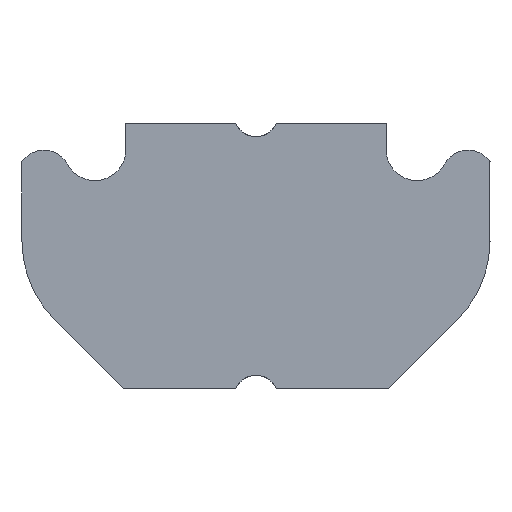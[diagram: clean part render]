
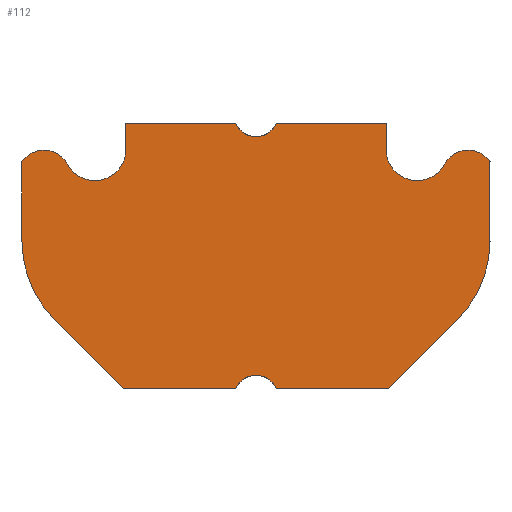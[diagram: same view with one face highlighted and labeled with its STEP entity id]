
A CAD part, left-side view. The second image highlights one B-rep face of the part: STEP entity #112.
In plain terms, the highlighted planar face has unit normal (-1, 0, 0).
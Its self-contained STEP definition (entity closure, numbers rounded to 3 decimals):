
#112=ADVANCED_FACE('',(#221),#222,.T.);
#221=FACE_OUTER_BOUND('',#321,.T.);
#222=PLANE('',#322);
#321=EDGE_LOOP('',(#608,#609,#610,#611,#612,#613,#614,#615,#616,#617,#618,#619,#620,#621,#622,#623,#624,#625,#626));
#322=AXIS2_PLACEMENT_3D('',#627,#628,#629);
#608=ORIENTED_EDGE('',*,*,#745,.T.);
#609=ORIENTED_EDGE('',*,*,#715,.T.);
#610=ORIENTED_EDGE('',*,*,#739,.T.);
#611=ORIENTED_EDGE('',*,*,#743,.T.);
#612=ORIENTED_EDGE('',*,*,#691,.F.);
#613=ORIENTED_EDGE('',*,*,#654,.T.);
#614=ORIENTED_EDGE('',*,*,#741,.T.);
#615=ORIENTED_EDGE('',*,*,#719,.T.);
#616=ORIENTED_EDGE('',*,*,#749,.T.);
#617=ORIENTED_EDGE('',*,*,#723,.T.);
#618=ORIENTED_EDGE('',*,*,#727,.T.);
#619=ORIENTED_EDGE('',*,*,#751,.F.);
#620=ORIENTED_EDGE('',*,*,#732,.T.);
#621=ORIENTED_EDGE('',*,*,#663,.T.);
#622=ORIENTED_EDGE('',*,*,#687,.F.);
#623=ORIENTED_EDGE('',*,*,#747,.T.);
#624=ORIENTED_EDGE('',*,*,#735,.T.);
#625=ORIENTED_EDGE('',*,*,#647,.F.);
#626=ORIENTED_EDGE('',*,*,#730,.F.);
#627=CARTESIAN_POINT('',(0.,-5.3,3.0));
#628=DIRECTION('',(-1.0,0.,0.0));
#629=DIRECTION('',(0.,-1.0,0.0));
#647=EDGE_CURVE('',#782,#777,#784,.T.);
#654=EDGE_CURVE('',#796,#794,#797,.T.);
#663=EDGE_CURVE('',#813,#811,#814,.T.);
#687=EDGE_CURVE('',#846,#811,#848,.T.);
#691=EDGE_CURVE('',#796,#850,#854,.T.);
#715=EDGE_CURVE('',#890,#888,#891,.T.);
#719=EDGE_CURVE('',#896,#894,#897,.T.);
#723=EDGE_CURVE('',#902,#900,#903,.T.);
#727=EDGE_CURVE('',#900,#906,#908,.T.);
#730=EDGE_CURVE('',#910,#782,#912,.T.);
#732=EDGE_CURVE('',#914,#813,#915,.T.);
#735=EDGE_CURVE('',#918,#777,#919,.T.);
#739=EDGE_CURVE('',#888,#922,#924,.T.);
#741=EDGE_CURVE('',#794,#896,#926,.T.);
#743=EDGE_CURVE('',#922,#850,#928,.T.);
#745=EDGE_CURVE('',#910,#890,#930,.T.);
#747=EDGE_CURVE('',#846,#918,#932,.T.);
#749=EDGE_CURVE('',#894,#902,#934,.T.);
#751=EDGE_CURVE('',#914,#906,#936,.T.);
#777=VERTEX_POINT('',#1000);
#782=VERTEX_POINT('',#1006);
#784=CIRCLE('',#1009,0.7);
#794=VERTEX_POINT('',#1022);
#796=VERTEX_POINT('',#1025);
#797=LINE('',#1026,#1027);
#811=VERTEX_POINT('',#1044);
#813=VERTEX_POINT('',#1047);
#814=LINE('',#1048,#1049);
#846=VERTEX_POINT('',#1152);
#848=CIRCLE('',#1155,0.5);
#850=VERTEX_POINT('',#1157);
#854=CIRCLE('',#1171,0.5);
#888=VERTEX_POINT('',#1214);
#890=VERTEX_POINT('',#1217);
#891=CIRCLE('',#1218,2.5);
#894=VERTEX_POINT('',#1222);
#896=VERTEX_POINT('',#1225);
#897=CIRCLE('',#1226,2.5);
#900=VERTEX_POINT('',#1230);
#902=VERTEX_POINT('',#1233);
#903=LINE('',#1234,#1235);
#906=VERTEX_POINT('',#1239);
#908=CIRCLE('',#1242,0.6);
#910=VERTEX_POINT('',#1244);
#912=CIRCLE('',#1247,0.6);
#914=VERTEX_POINT('',#1249);
#915=LINE('',#1250,#1251);
#918=VERTEX_POINT('',#1255);
#919=LINE('',#1256,#1257);
#922=VERTEX_POINT('',#1261);
#924=LINE('',#1264,#1265);
#926=LINE('',#1267,#1268);
#928=LINE('',#1270,#1271);
#930=LINE('',#1273,#1274);
#932=LINE('',#1276,#1277);
#934=LINE('',#1279,#1280);
#936=CIRCLE('',#1282,0.7);
#1000=CARTESIAN_POINT('',(0.,2.95,2.406));
#1006=CARTESIAN_POINT('',(0.,4.269,2.08));
#1009=AXIS2_PLACEMENT_3D('',#1306,#1307,#1308);
#1022=CARTESIAN_POINT('',(0.,-3.0,-3.0));
#1025=CARTESIAN_POINT('',(0.,-0.458,-3.0));
#1026=CARTESIAN_POINT('',(0.,5.3,-3.0));
#1027=VECTOR('',#1316,1.0);
#1044=CARTESIAN_POINT('',(0.,-0.458,3.0));
#1047=CARTESIAN_POINT('',(0.,-2.95,3.0));
#1048=CARTESIAN_POINT('',(0.,-5.3,3.0));
#1049=VECTOR('',#1330,1.0);
#1152=CARTESIAN_POINT('',(0.,0.458,3.0));
#1155=AXIS2_PLACEMENT_3D('',#1343,#1344,#1345);
#1157=CARTESIAN_POINT('',(0.,0.458,-3.0));
#1171=AXIS2_PLACEMENT_3D('',#1347,#1348,#1349);
#1214=CARTESIAN_POINT('',(0.,4.568,-1.432));
#1217=CARTESIAN_POINT('',(0.,5.3,0.336));
#1218=AXIS2_PLACEMENT_3D('',#1387,#1388,#1389);
#1222=CARTESIAN_POINT('',(0.,-5.3,0.336));
#1225=CARTESIAN_POINT('',(0.,-4.568,-1.432));
#1226=AXIS2_PLACEMENT_3D('',#1392,#1393,#1394);
#1230=CARTESIAN_POINT('',(0.,-5.3,2.132));
#1233=CARTESIAN_POINT('',(0.,-5.3,2.132));
#1234=CARTESIAN_POINT('',(0.,-5.3,2.132));
#1235=VECTOR('',#1397,1.0);
#1239=CARTESIAN_POINT('',(0.,-4.269,2.08));
#1242=AXIS2_PLACEMENT_3D('',#1400,#1401,#1402);
#1244=CARTESIAN_POINT('',(0.,5.3,2.132));
#1247=AXIS2_PLACEMENT_3D('',#1404,#1405,#1406);
#1249=CARTESIAN_POINT('',(0.,-2.95,2.406));
#1250=CARTESIAN_POINT('',(0.,-2.95,4.001));
#1251=VECTOR('',#1407,1.0);
#1255=CARTESIAN_POINT('',(0.,2.95,3.0));
#1256=CARTESIAN_POINT('',(0.,2.95,2.4));
#1257=VECTOR('',#1409,1.0);
#1261=CARTESIAN_POINT('',(0.,3.0,-3.0));
#1264=CARTESIAN_POINT('',(0.,1.85,-4.15));
#1265=VECTOR('',#1412,1.0);
#1267=CARTESIAN_POINT('',(0.,-3.0,-3.0));
#1268=VECTOR('',#1413,1.0);
#1270=CARTESIAN_POINT('',(0.,5.3,-3.0));
#1271=VECTOR('',#1414,1.0);
#1273=CARTESIAN_POINT('',(0.,5.3,3.0));
#1274=VECTOR('',#1415,1.0);
#1276=CARTESIAN_POINT('',(0.,-5.3,3.0));
#1277=VECTOR('',#1416,1.0);
#1279=CARTESIAN_POINT('',(0.,-5.3,-3.0));
#1280=VECTOR('',#1417,1.0);
#1282=AXIS2_PLACEMENT_3D('',#1418,#1419,#1420);
#1306=CARTESIAN_POINT('',(0.0,3.65,2.406));
#1307=DIRECTION('',(-1.0,0.,0.0));
#1308=DIRECTION('',(0.,-1.0,0.0));
#1316=DIRECTION('',(0.,-1.0,0.));
#1330=DIRECTION('',(0.,1.0,0.0));
#1343=CARTESIAN_POINT('',(0.,0.,3.2));
#1344=DIRECTION('',(-1.0,0.,0.0));
#1345=DIRECTION('',(0.,-1.0,0.0));
#1347=CARTESIAN_POINT('',(0.,0.,-3.2));
#1348=DIRECTION('',(-1.0,0.,0.0));
#1349=DIRECTION('',(0.,-1.0,0.0));
#1387=CARTESIAN_POINT('',(0.0,2.8,0.336));
#1388=DIRECTION('',(-1.0,0.,0.0));
#1389=DIRECTION('',(0.,-1.0,0.0));
#1392=CARTESIAN_POINT('',(0.0,-2.8,0.336));
#1393=DIRECTION('',(-1.0,0.,0.0));
#1394=DIRECTION('',(0.,-1.0,0.0));
#1397=DIRECTION('',(0.,0.569,-0.822));
#1400=CARTESIAN_POINT('',(0.,-4.8,1.8));
#1401=DIRECTION('',(-1.0,0.,0.0));
#1402=DIRECTION('',(0.,-1.0,0.0));
#1404=CARTESIAN_POINT('',(0.,4.8,1.8));
#1405=DIRECTION('',(1.0,0.,0.0));
#1406=DIRECTION('',(0.,-1.0,0.0));
#1407=DIRECTION('',(0.0,0.0,1.0));
#1409=DIRECTION('',(0.0,0.0,-1.0));
#1412=DIRECTION('',(0.,-0.707,-0.707));
#1413=DIRECTION('',(0.,-0.707,0.707));
#1414=DIRECTION('',(0.,-1.0,0.));
#1415=DIRECTION('',(0.,0.,-1.0));
#1416=DIRECTION('',(0.,1.0,0.0));
#1417=DIRECTION('',(0.,0.,1.0));
#1418=CARTESIAN_POINT('',(0.0,-3.65,2.406));
#1419=DIRECTION('',(-1.0,0.,0.0));
#1420=DIRECTION('',(0.,-1.0,0.0));
